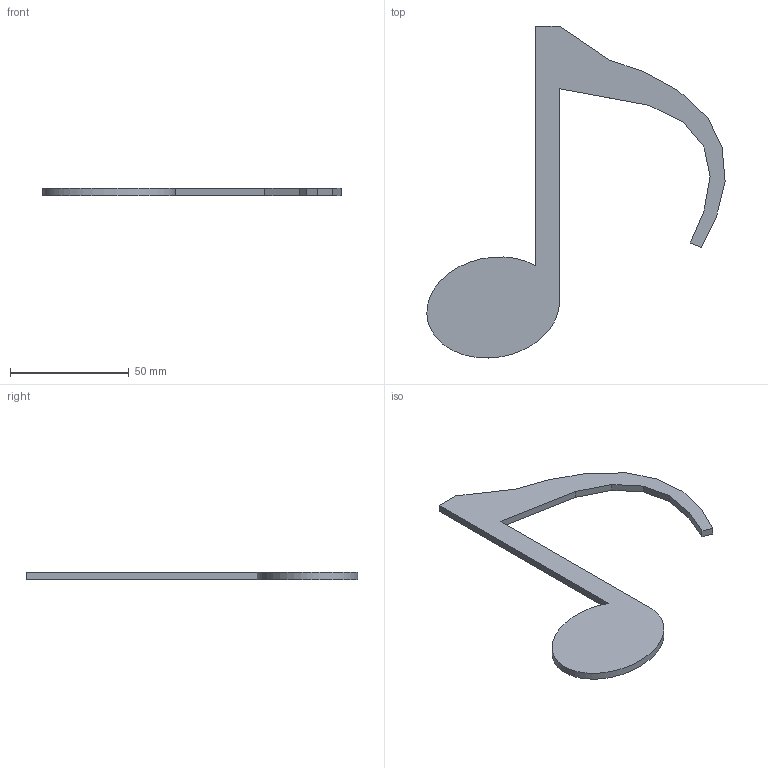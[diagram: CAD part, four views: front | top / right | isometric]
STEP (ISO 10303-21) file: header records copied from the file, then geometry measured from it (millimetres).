
FILE_DESCRIPTION(('STEP AP214'),'1');
FILE_NAME('Eighth_note-3.stp','2020-10-25T12:24:01',(' '),(' '),'Spatial InterOp 3D',' ',' ');
FILE_SCHEMA(('AUTOMOTIVE_DESIGN { 1 0 10303 214 1 1 1 1 }'));
Length unit declared in the file: millimetre
Products named in the file (1): 1
Bounding box: 125.32 x 139.5 x 3 mm (x, y, z)
Volume: 12583.7 mm3; surface area: 10134.6 mm2
Topology: 1 solids, 1 shells, 21 faces, 57 edges, 38 vertices
Faces by surface type: plane 20, extrusion 1
Entity records: 673 total; most frequent: CARTESIAN_POINT 123, ORIENTED_EDGE 114, DIRECTION 102, EDGE_CURVE 57, VECTOR 56, LINE 55, VERTEX_POINT 38, AXIS2_PLACEMENT_3D 23
